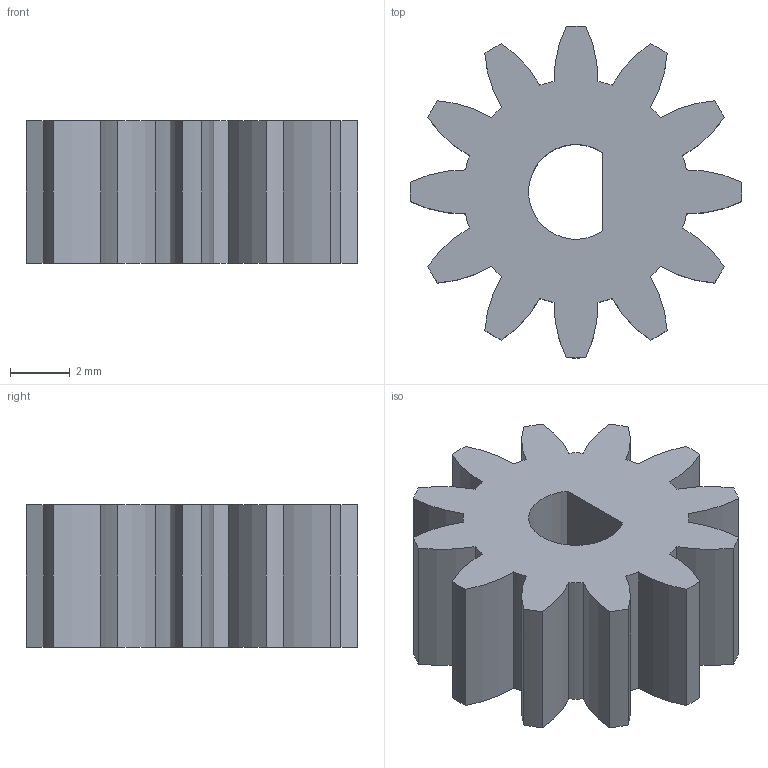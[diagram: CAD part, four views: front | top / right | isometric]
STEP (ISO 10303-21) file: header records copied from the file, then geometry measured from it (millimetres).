
FILE_DESCRIPTION((''),'2;1');
FILE_NAME('C:\Documents and Settings\Powderly\Desktop\GP1Pinion.stp','2005-08-09T02:11:12',('Powderly'),(''),'Autodesk Inventor 10','Autodesk Inventor 10','');
FILE_SCHEMA(('AUTOMOTIVE_DESIGN { 1 0 10303 214 1 1 1 1 }'));
Length unit declared in the file: inch
Products named in the file (1): 32, 0
Bounding box: 11.11 x 11.11 x 4.76 mm (x, y, z)
Volume: 305.3 mm3; surface area: 457.2 mm2
Topology: 1 solids, 1 shells, 52 faces, 150 edges, 100 vertices
Faces by surface type: cylinder 48, plane 3, bspline 1
Entity records: 1814 total; most frequent: DIRECTION 352, CARTESIAN_POINT 320, ORIENTED_EDGE 300, AXIS2_PLACEMENT_3D 150, EDGE_CURVE 150, VERTEX_POINT 100, CIRCLE 98, EDGE_LOOP 54
